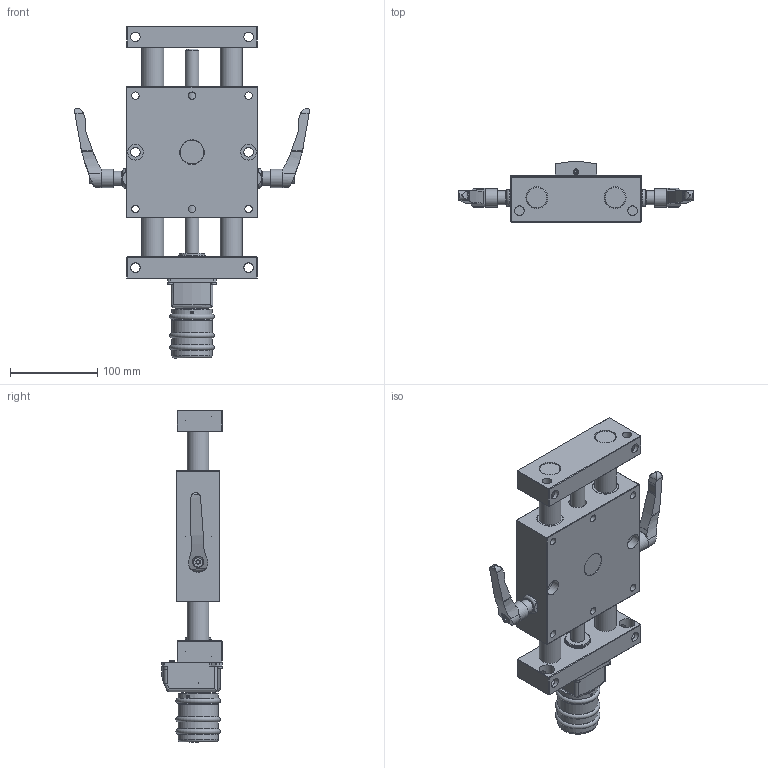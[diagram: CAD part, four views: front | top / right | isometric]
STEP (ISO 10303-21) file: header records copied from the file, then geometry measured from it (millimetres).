
FILE_DESCRIPTION (( 'STEP AP214' ), '1' );
FILE_NAME ('PT8625-PA-2KH-Positioniertisch.STEP', '2023-11-20T14:37:32', ( '' ), ( '' ), 'SwSTEP 2.0', 'SolidWorks 2019', '' );
FILE_SCHEMA (( 'AUTOMOTIVE_DESIGN' ));
Length unit declared in the file: millimetre
Products named in the file (4): PT8625-000-01-Festteil-PA(E)_n_Standard; PT25-100-02-Schlitten-komplett-2KH; PA25-PTHT-000-Positionsanzeiger-komplett_n_Standard; PT8625-PA-2KH-Positioniertisch
Assembly tree (3 placements, depth 2):
  PT8625-PA-2KH-Positioniertisch
    PT8625-000-01-Festteil-PA(E)_n_Standard
    PA25-PTHT-000-Positionsanzeiger-komplett_n_Standard
    PT25-100-02-Schlitten-komplett-2KH
Bounding box: 269.61 x 70.01 x 381.25 mm (x, y, z)
Volume: 1762186.3 mm3; surface area: 297454.1 mm2
Topology: 3 solids, 13 shells, 714 faces, 1650 edges, 1059 vertices
Faces by surface type: plane 318, cylinder 283, cone 73, torus 31, sphere 9
Full cylindrical faces by diameter (mm): 2.5 x2, 3 x3, 3.2 x2, 3.3 x4, 4.134 x1, 5 x3, 5.5 x2, 6 x1, 7 x2, 8.5 x8, 10 x2, 10.6 x4, 11 x14, 13.7 x2, 14 x6, 14.5 x4, 16 x6, 16.5 x1, 16.6 x2, 18 x14, 18.5 x2, 19 x1, 19.5 x1, 19.9 x1, 20 x4, 20.4 x1, 21 x2, 23 x2, 23.9 x1, 24 x2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
Entity records: 21246 total; most frequent: CARTESIAN_POINT 6037, DIRECTION 3166, ORIENTED_EDGE 2602, EDGE_CURVE 1301, AXIS2_PLACEMENT_3D 1287, EDGE_LOOP 1125, VERTEX_POINT 952, FACE_OUTER_BOUND 885
